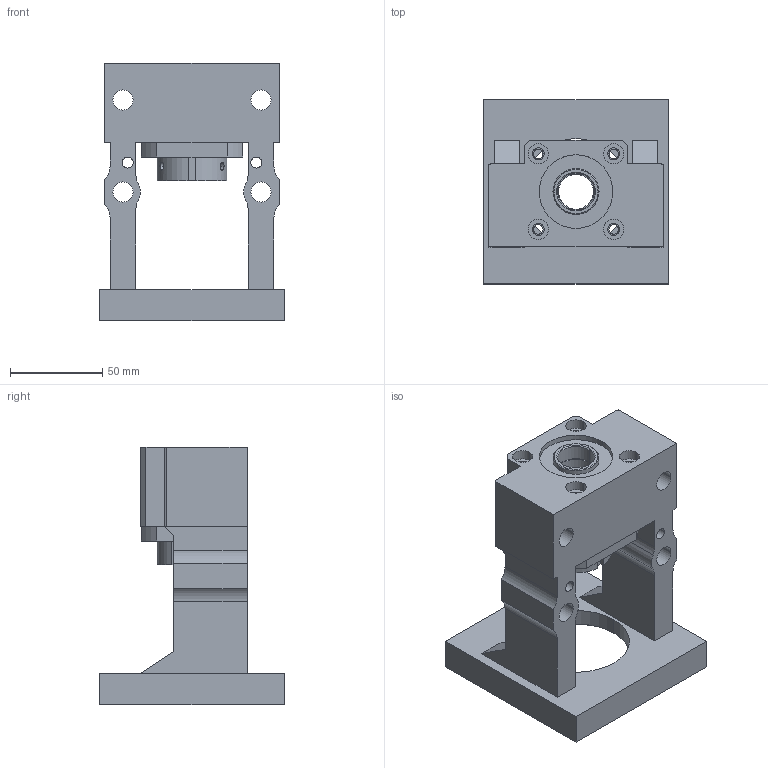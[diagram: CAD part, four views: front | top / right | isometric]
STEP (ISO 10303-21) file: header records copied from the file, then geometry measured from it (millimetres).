
FILE_DESCRIPTION((''),'2;1');
FILE_NAME('M90X--AK20-C_ASM','2019-12-30T',('ASUS'),(''),'PRO/ENGINEER BY PARAMETRIC TECHNOLOGY CORPORATION, 2010280','PRO/ENGINEER BY PARAMETRIC TECHNOLOGY CORPORATION, 2010280','');
FILE_SCHEMA(('CONFIG_CONTROL_DESIGN'));
Length unit declared in the file: millimetre
Products named in the file (5): MBCS15-X-02; NF_M20X1; MBCS20-X-02; _MBCS20-X; M90X--AK20-C_ASM
Assembly tree (5 placements, depth 2):
  M90X--AK20-C_ASM
    MBCS15-X-02
    NF_M20X1
    MBCS20-X-02  x2
    _MBCS20-X
Bounding box: 100 x 100 x 140 mm (x, y, z)
Volume: 401744.8 mm3; surface area: 93197.7 mm2
Topology: 5 solids, 5 shells, 203 faces, 540 edges, 357 vertices
Faces by surface type: cylinder 107, plane 72, cone 24
Entity records: 6410 total; most frequent: CARTESIAN_POINT 1236, DIRECTION 1125, ORIENTED_EDGE 1008, EDGE_CURVE 504, AXIS2_PLACEMENT_3D 434, VERTEX_POINT 341, VECTOR 257, LINE 257
